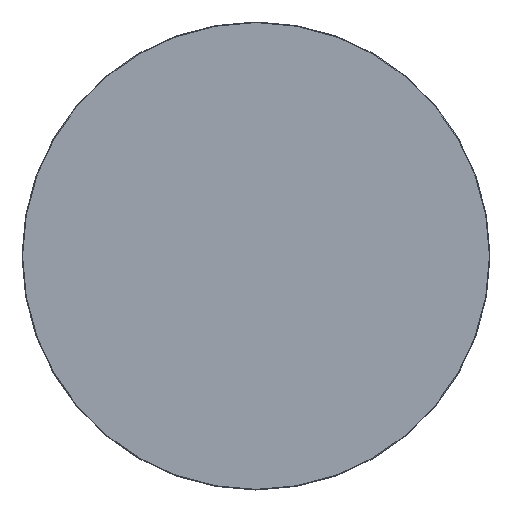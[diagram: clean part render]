
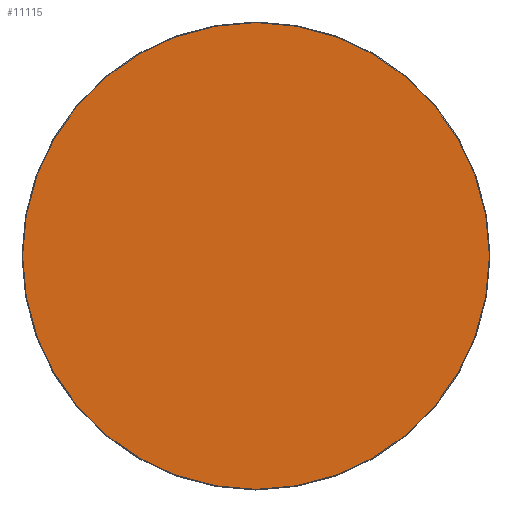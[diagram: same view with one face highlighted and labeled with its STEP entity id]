
A CAD part, top view. The second image highlights one B-rep face of the part: STEP entity #11115.
In plain terms, the highlighted planar face has unit normal (0, 0, 1).
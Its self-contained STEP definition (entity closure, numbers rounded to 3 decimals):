
#11040=CARTESIAN_POINT('',(0.,0.,20.));
#11041=DIRECTION('',(1.,0.,0.));
#11042=DIRECTION('',(0.,0.,1.));
#11043=AXIS2_PLACEMENT_3D('',#11040,#11042,#11041);
#11044=PLANE('',#11043);
#11045=CARTESIAN_POINT('',(-0.5,-548.5,20.));
#11046=VERTEX_POINT('',#11045);
#11047=CARTESIAN_POINT('',(0.5,-548.5,20.));
#11048=VERTEX_POINT('',#11047);
#11049=CARTESIAN_POINT('',(-0.5,-548.5,20.));
#11050=DIRECTION('',(1.,0.,0.));
#11051=VECTOR('',#11050,1.);
#11052=LINE('',#11049,#11051);
#11053=EDGE_CURVE('',#11046,#11048,#11052,.T.);
#11054=ORIENTED_EDGE('E105',*,*,#11053,.T.);
#11055=CARTESIAN_POINT('',(548.5,-0.5,20.));
#11056=VERTEX_POINT('',#11055);
#11057=CARTESIAN_POINT('',(0.5,-0.5,20.));
#11058=DIRECTION('',(0.,-1.,0.));
#11059=DIRECTION('',(0.,-0.,1.));
#11060=AXIS2_PLACEMENT_3D('',#11057,#11059,#11058);
#11061=CIRCLE('',#11060,548.);
#11062=EDGE_CURVE('',#11048,#11056,#11061,.T.);
#11063=ORIENTED_EDGE('E107',*,*,#11062,.T.);
#11064=CARTESIAN_POINT('',(548.5,0.5,20.));
#11065=VERTEX_POINT('',#11064);
#11066=CARTESIAN_POINT('',(548.5,-0.5,20.));
#11067=DIRECTION('',(0.,1.,0.));
#11068=VECTOR('',#11067,1.);
#11069=LINE('',#11066,#11068);
#11070=EDGE_CURVE('',#11056,#11065,#11069,.T.);
#11071=ORIENTED_EDGE('E109',*,*,#11070,.T.);
#11072=CARTESIAN_POINT('',(0.5,548.5,20.));
#11073=VERTEX_POINT('',#11072);
#11074=CARTESIAN_POINT('',(0.5,0.5,20.));
#11075=DIRECTION('',(1.,0.,0.));
#11076=DIRECTION('',(0.,0.,1.));
#11077=AXIS2_PLACEMENT_3D('',#11074,#11076,#11075);
#11078=CIRCLE('',#11077,548.);
#11079=EDGE_CURVE('',#11065,#11073,#11078,.T.);
#11080=ORIENTED_EDGE('E111',*,*,#11079,.T.);
#11081=CARTESIAN_POINT('',(-0.5,548.5,20.));
#11082=VERTEX_POINT('',#11081);
#11083=CARTESIAN_POINT('',(0.5,548.5,20.));
#11084=DIRECTION('',(-1.,0.,0.));
#11085=VECTOR('',#11084,1.);
#11086=LINE('',#11083,#11085);
#11087=EDGE_CURVE('',#11073,#11082,#11086,.T.);
#11088=ORIENTED_EDGE('E113',*,*,#11087,.T.);
#11089=CARTESIAN_POINT('',(-548.5,0.5,20.));
#11090=VERTEX_POINT('',#11089);
#11091=CARTESIAN_POINT('',(-0.5,0.5,20.));
#11092=DIRECTION('',(0.,1.,0.));
#11093=DIRECTION('',(0.,0.,1.));
#11094=AXIS2_PLACEMENT_3D('',#11091,#11093,#11092);
#11095=CIRCLE('',#11094,548.);
#11096=EDGE_CURVE('',#11082,#11090,#11095,.T.);
#11097=ORIENTED_EDGE('E115',*,*,#11096,.T.);
#11098=CARTESIAN_POINT('',(-548.5,-0.5,20.));
#11099=VERTEX_POINT('',#11098);
#11100=CARTESIAN_POINT('',(-548.5,0.5,20.));
#11101=DIRECTION('',(0.,-1.,0.));
#11102=VECTOR('',#11101,1.);
#11103=LINE('',#11100,#11102);
#11104=EDGE_CURVE('',#11090,#11099,#11103,.T.);
#11105=ORIENTED_EDGE('E117',*,*,#11104,.T.);
#11106=CARTESIAN_POINT('',(-0.5,-0.5,20.));
#11107=DIRECTION('',(-1.,0.,0.));
#11108=DIRECTION('',(0.,0.,1.));
#11109=AXIS2_PLACEMENT_3D('',#11106,#11108,#11107);
#11110=CIRCLE('',#11109,548.);
#11111=EDGE_CURVE('',#11099,#11046,#11110,.T.);
#11112=ORIENTED_EDGE('E119',*,*,#11111,.T.);
#11113=EDGE_LOOP('',(#11054,#11063,#11071,#11080,#11088,#11097,#11105,#11112));
#11114=FACE_OUTER_BOUND('',#11113,.T.);
#11115=ADVANCED_FACE('F2',(#11114),#11044,.T.);
